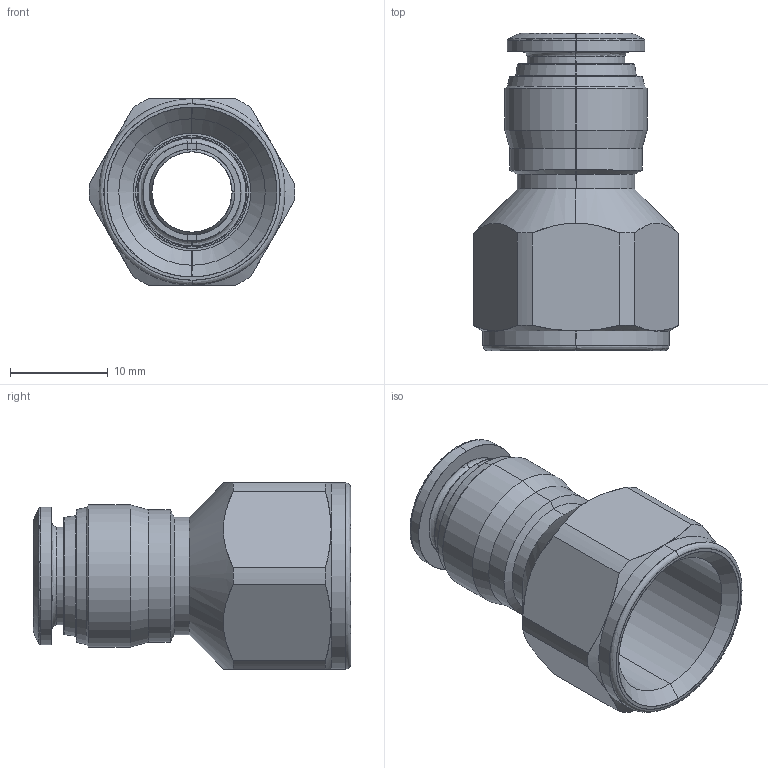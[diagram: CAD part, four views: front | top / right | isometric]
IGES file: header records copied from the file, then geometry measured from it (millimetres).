
Start section: SolidWorks IGES file using analytic representation for surfaces
Global section: file name: C:\Users\cad06\Desktop\Nuova cartella\40030V0010A.IGS; native system: SolidWorks 2016; preprocessor: SolidWorks 2016; author: cad06; date: 160516.134702; units: millimetre
Bounding box: 20.99 x 32.4 x 19 mm (x, y, z)
Surface area: 2890.7 mm2 (no closed solid volume)
Topology: 0 solids, 0 shells, 74 faces, 824 edges, 824 vertices
Faces by surface type: revolution 50, bspline 24
